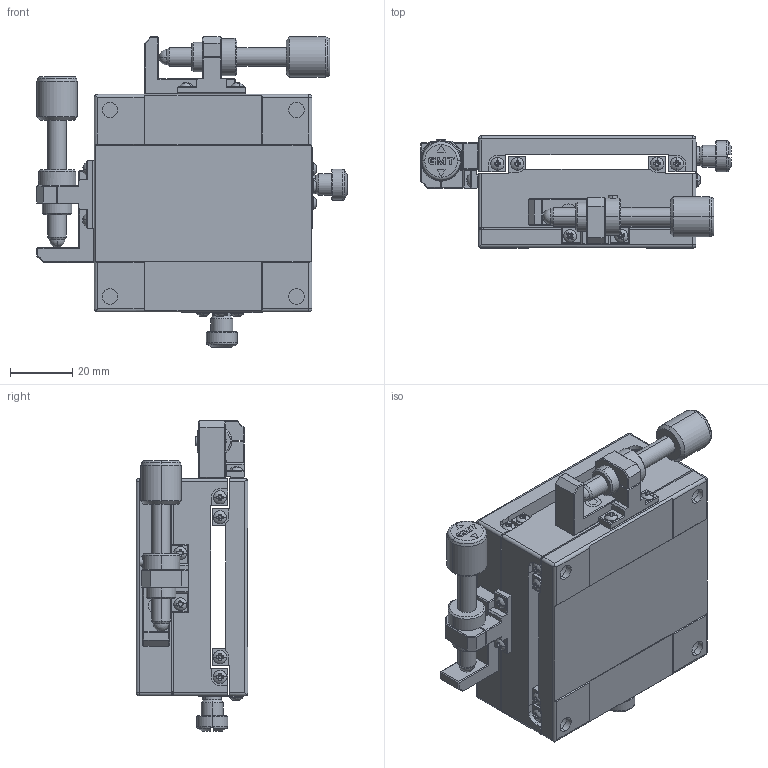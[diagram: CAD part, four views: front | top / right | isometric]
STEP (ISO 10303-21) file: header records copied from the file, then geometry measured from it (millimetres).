
FILE_DESCRIPTION (( 'STEP AP203' ), '1' );
FILE_NAME ('MY70-SS-28(«¬¿ý).STEP', '2015-06-23T07:33:19', ( '' ), ( '' ), 'SwSTEP 2.0', 'SolidWorks 2015', '' );
FILE_SCHEMA (( 'CONFIG_CONTROL_DESIGN' ));
Length unit declared in the file: millimetre
Products named in the file (4): Group1^MY70-SS-28(模糊化); Group2^MY70-SS-28(模糊化); Group3^MY70-SS-28(模糊化); MY70-SS-28(型錄)
Assembly tree (3 placements, depth 2):
  MY70-SS-28(型錄)
    Group1^MY70-SS-28(模糊化)
    Group2^MY70-SS-28(模糊化)
    Group3^MY70-SS-28(模糊化)
Bounding box: 99.8 x 36 x 99.8 mm (x, y, z)
Volume: 157962.8 mm3; surface area: 53909.7 mm2
Topology: 18 solids, 18 shells, 1913 faces, 5008 edges, 3192 vertices
Faces by surface type: plane 1189, cylinder 290, cone 192, bspline 154, sphere 62, torus 26
Entity records: 66721 total; most frequent: CARTESIAN_POINT 19755, ORIENTED_EDGE 9896, DIRECTION 9427, EDGE_CURVE 4948, AXIS2_PLACEMENT_3D 3268, VERTEX_POINT 3192, LINE 2891, VECTOR 2891
